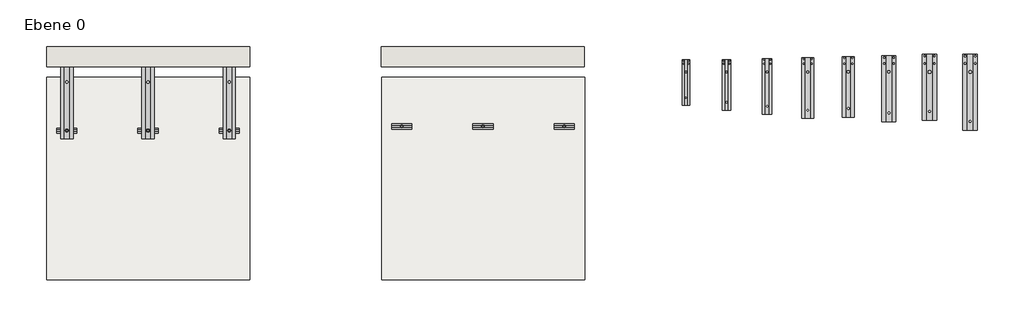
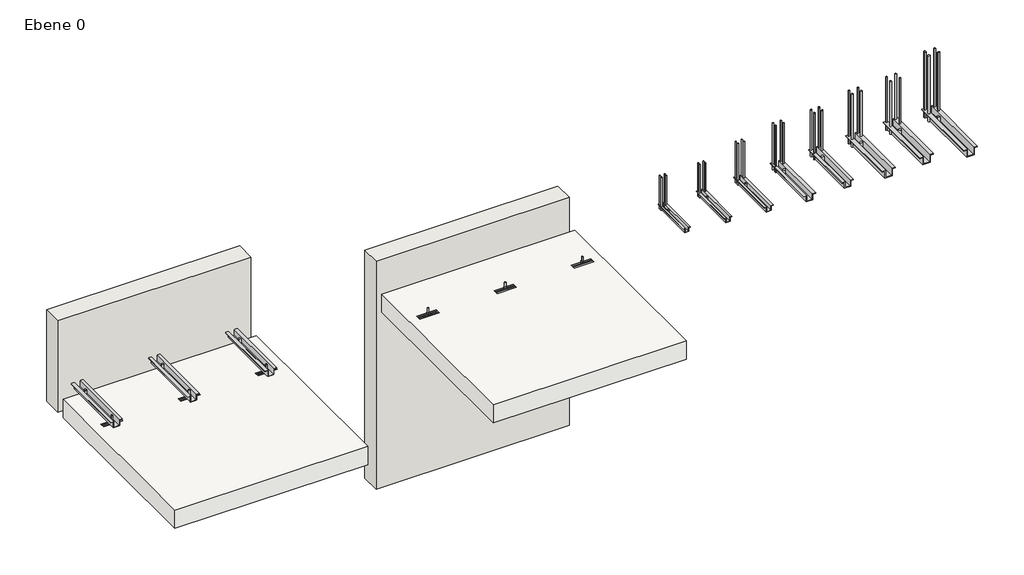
# One storey: 9 fasteners, 6 beams, 2 slabs, 2 walls.
"""IFC4 building model written with IfcOpenShell, lengths in millimetres."""

from ifc_helpers import new_model, si_unit, frame, origin, origin_with_axes, place, context, project, spatial, polyline, outline, extrude, faceted_brep, transform, mapped, element, save
from components import beam_5c117049, beam_983bb281, jba_1_80170435, jba_2_155e2620, jba_3_dd13063b, jba_4_dde57de7, jba_4_15aaa7ff, jba_5_88301e45, jba_6_cc252f45, jba_7_bb973c20, jba_8_3b5d41c7

model = new_model("IFC4")

# Units and contexts
model_context = context("Model", 3, world=origin())
ifc_project = project(units=[si_unit("LENGTHUNIT", "METRE", prefix="MILLI")], contexts=[model_context])

# Site, building, storey
site = spatial("IfcSite", under=ifc_project)
building = spatial("IfcBuilding", under=site)
storey = spatial("IfcBuildingStorey", under=building, Name="Ebene 0", Elevation=0.0)

# Beams
placement = place(None, origin())
beam_shape = beam_5c117049(model_context)
element("IfcBeam", 1, ObjectType="JORDAHL_AnchorChannels_JTA_W : JTA W 50/30 200 mm", at=placement, inside=storey, context=model_context, shape_type="MappedRepresentation", body=[
    mapped(beam_shape, transform((-1733.9223115, 5923.913959, 200.0), x_axis=(1.0, 0.0, 0.0), y_axis=(0.0, 1.0, 0.0), z_axis=(0.0, 0.0, 1.0))),
])
element("IfcBeam", 2, ObjectType="JORDAHL_AnchorChannels_JTA_W : JTA W 50/30 200 mm", at=placement, inside=storey, context=model_context, shape_type="MappedRepresentation", body=[
    mapped(beam_shape, transform((-933.9223115, 5923.913959, 200.0), x_axis=(1.0, 0.0, 0.0), y_axis=(0.0, 1.0, 0.0), z_axis=(0.0, 0.0, 1.0))),
])
element("IfcBeam", 3, ObjectType="JORDAHL_AnchorChannels_JTA_W : JTA W 50/30 200 mm", at=placement, inside=storey, context=model_context, shape_type="MappedRepresentation", body=[
    mapped(beam_shape, transform((-133.9223115, 5923.913959, 200.0), x_axis=(1.0, 0.0, 0.0), y_axis=(0.0, 1.0, 0.0), z_axis=(0.0, 0.0, 1.0))),
])
beam_2_shape = beam_983bb281(model_context)
element("IfcBeam", 4, ObjectType="JORDAHL_AnchorChannels_JTA_W : JTA W 53/34 200 mm", at=placement, inside=storey, context=model_context, shape_type="MappedRepresentation", body=[
    mapped(beam_2_shape, transform((1566.0776885, 5964.6967951, 200.0), x_axis=(1.0, 0.0, 0.0), y_axis=(0.0, 1.0, 0.0), z_axis=(0.0, 0.0, 1.0))),
])
element("IfcBeam", 5, ObjectType="JORDAHL_AnchorChannels_JTA_W : JTA W 53/34 200 mm", at=placement, inside=storey, context=model_context, shape_type="MappedRepresentation", body=[
    mapped(beam_2_shape, transform((2366.0776885, 5964.6967951, 200.0), x_axis=(1.0, 0.0, 0.0), y_axis=(0.0, 1.0, 0.0), z_axis=(0.0, 0.0, 1.0))),
])
element("IfcBeam", 6, ObjectType="JORDAHL_AnchorChannels_JTA_W : JTA W 53/34 200 mm", at=placement, inside=storey, context=model_context, shape_type="MappedRepresentation", body=[
    mapped(beam_2_shape, transform((3166.0776885, 5964.6967951, 200.0), x_axis=(1.0, 0.0, 0.0), y_axis=(0.0, 1.0, 0.0), z_axis=(0.0, 0.0, 1.0))),
])

# Fasteners
jba_1_shape = jba_1_80170435(model_context)
element("IfcFastener", 7, ObjectType="JBA JORDAHL® support corbels_1 : JBA 1", at=placement, inside=storey, context=model_context, shape_type="MappedRepresentation", body=[
    mapped(jba_1_shape, transform((4466.0776885, 6551.4862709, 0.0), x_axis=(1.0, 0.0, 0.0), y_axis=(0.0, 0.0, 1.0), z_axis=(0.0, -1.0, 0.0))),
])
jba_2_shape = jba_2_155e2620(model_context)
element("IfcFastener", 8, ObjectType="JBA JORDAHL® support corbels_1 : JBA 2", at=placement, inside=storey, context=model_context, shape_type="MappedRepresentation", body=[
    mapped(jba_2_shape, transform((4866.0776885, 6551.4862709, 0.0), x_axis=(1.0, 0.0, 0.0), y_axis=(0.0, 0.0, 1.0), z_axis=(0.0, -1.0, 0.0))),
])
jba_3_shape = jba_3_dd13063b(model_context)
element("IfcFastener", 9, ObjectType="JBA JORDAHL® support corbels_1 : JBA 3", at=placement, inside=storey, context=model_context, shape_type="MappedRepresentation", body=[
    mapped(jba_3_shape, transform((5266.0776885, 6551.4862709, 0.0), x_axis=(1.0, 0.0, 0.0), y_axis=(0.0, 0.0, 1.0), z_axis=(0.0, -1.0, 0.0))),
])
jba_4_shape = jba_4_dde57de7(model_context)
element("IfcFastener", 10, ObjectType="JBA JORDAHL® support corbels_1 : JBA 4", at=placement, inside=storey, context=model_context, shape_type="MappedRepresentation", body=[
    mapped(jba_4_shape, transform((-1633.9223115, 6551.4862709, 201.0880347), x_axis=(1.0, 0.0, 0.0), y_axis=(0.0, 0.0, 1.0), z_axis=(0.0, -1.0, 0.0))),
])
jba_4_2_shape = jba_4_15aaa7ff(model_context)
element("IfcFastener", 11, ObjectType="JBA JORDAHL® support corbels_1 : JBA 4", at=placement, inside=storey, context=model_context, shape_type="MappedRepresentation", body=[
    mapped(jba_4_2_shape, transform((5666.0776885, 6551.4862709, 0.0), x_axis=(1.0, 0.0, 0.0), y_axis=(0.0, 0.0, 1.0), z_axis=(0.0, -1.0, 0.0))),
])
jba_5_shape = jba_5_88301e45(model_context)
element("IfcFastener", 12, ObjectType="JBA JORDAHL® support corbels_1 : JBA 5", at=placement, inside=storey, context=model_context, shape_type="MappedRepresentation", body=[
    mapped(jba_5_shape, transform((6066.0776885, 6551.4862709, 0.0), x_axis=(1.0, 0.0, 0.0), y_axis=(0.0, 0.0, 1.0), z_axis=(0.0, -1.0, 0.0))),
])
jba_6_shape = jba_6_cc252f45(model_context)
element("IfcFastener", 13, ObjectType="JBA JORDAHL® support corbels_1 : JBA 6", at=placement, inside=storey, context=model_context, shape_type="MappedRepresentation", body=[
    mapped(jba_6_shape, transform((6466.0776885, 6551.4862709, 0.0), x_axis=(1.0, 0.0, 0.0), y_axis=(0.0, 0.0, 1.0), z_axis=(0.0, -1.0, 0.0))),
])
jba_7_shape = jba_7_bb973c20(model_context)
element("IfcFastener", 14, ObjectType="JBA JORDAHL® support corbels_1 : JBA 7", at=placement, inside=storey, context=model_context, shape_type="MappedRepresentation", body=[
    mapped(jba_7_shape, transform((6866.0776885, 6551.4862709, 0.0), x_axis=(1.0, 0.0, 0.0), y_axis=(0.0, 0.0, 1.0), z_axis=(0.0, -1.0, 0.0))),
])
jba_8_shape = jba_8_3b5d41c7(model_context)
element("IfcFastener", 15, ObjectType="JBA JORDAHL® support corbels_1 : JBA 8", at=placement, inside=storey, context=model_context, shape_type="MappedRepresentation", body=[
    mapped(jba_8_shape, transform((7266.0776885, 6551.4862709, 0.0), x_axis=(1.0, 0.0, 0.0), y_axis=(0.0, 0.0, 1.0), z_axis=(0.0, -1.0, 0.0))),
])

# Slabs
element("IfcSlab", 16, ObjectType="STB 20.0", at=placement, inside=storey, context=model_context, shape_type="Brep", body=[
    faceted_brep([(166.7994434, 4451.4862709, 0.0), (-1833.2005566, 4451.4862709, 0.0), (-1833.2005566, 6451.4862709, 0.0), (166.7994434, 6451.4862709, 0.0), (-1833.2005566, 4451.4862709, 200.0), (166.7994434, 4451.4862709, 200.0), (166.7994434, 6451.4862709, 200.0), (-1833.2005566, 6451.4862709, 200.0), (-1533.9223115, 5948.913959, 200.0), (-1533.9223115, 5898.913959, 200.0), (-1733.9223115, 5898.913959, 200.0), (-1733.9223115, 5948.913959, 200.0), (-733.9223115, 5948.913959, 200.0), (-733.9223115, 5898.913959, 200.0), (-933.9223115, 5898.913959, 200.0), (-933.9223115, 5948.913959, 200.0), (66.0776885, 5948.913959, 200.0), (66.0776885, 5898.913959, 200.0), (-133.9223115, 5898.913959, 200.0), (-133.9223115, 5948.913959, 200.0), (-1533.9223115, 5948.913959, 170.0), (-1533.9223115, 5898.913959, 170.0), (-1733.9223115, 5898.913959, 170.0), (-1733.9223115, 5948.913959, 170.0), (-733.9223115, 5948.913959, 170.0), (-733.9223115, 5898.913959, 170.0), (-933.9223115, 5898.913959, 170.0), (-933.9223115, 5948.913959, 170.0), (66.0776885, 5948.913959, 170.0), (66.0776885, 5898.913959, 170.0), (-133.9223115, 5898.913959, 170.0), (-133.9223115, 5948.913959, 170.0)], [[[0, 1, 2, 3]], [[4, 5, 6, 7], [8, 9, 10, 11], [12, 13, 14, 15], [16, 17, 18, 19]], [[1, 0, 5, 4]], [[2, 1, 4, 7]], [[3, 2, 7, 6]], [[0, 3, 6, 5]], [[8, 20, 21, 9]], [[10, 22, 23, 11]], [[9, 21, 22, 10]], [[21, 20, 23, 22]], [[20, 8, 11, 23]], [[12, 24, 25, 13]], [[14, 26, 27, 15]], [[13, 25, 26, 14]], [[25, 24, 27, 26]], [[24, 12, 15, 27]], [[16, 28, 29, 17]], [[18, 30, 31, 19]], [[17, 29, 30, 18]], [[29, 28, 31, 30]], [[28, 16, 19, 31]]]),
])
element("IfcSlab", 17, ObjectType="STB 20.0", at=placement, inside=storey, context=model_context, shape_type="Brep", body=[
    faceted_brep([(3466.7994434, 4451.4862709, 0.0), (1466.7994434, 4451.4862709, 0.0), (1466.7994434, 6451.4862709, 0.0), (3466.7994434, 6451.4862709, 0.0), (1466.7994434, 4451.4862709, 200.0), (3466.7994434, 4451.4862709, 200.0), (3466.7994434, 6451.4862709, 200.0), (1466.7994434, 6451.4862709, 200.0), (1766.0776885, 5991.1967951, 200.0), (1766.0776885, 5938.1967951, 200.0), (1566.0776885, 5938.1967951, 200.0), (1566.0776885, 5991.1967951, 200.0), (2566.0776885, 5991.1967951, 200.0), (2566.0776885, 5938.1967951, 200.0), (2366.0776885, 5938.1967951, 200.0), (2366.0776885, 5991.1967951, 200.0), (3366.0776885, 5991.1967951, 200.0), (3366.0776885, 5938.1967951, 200.0), (3166.0776885, 5938.1967951, 200.0), (3166.0776885, 5991.1967951, 200.0), (1766.0776885, 5991.1967951, 166.0), (1766.0776885, 5938.1967951, 166.0), (1566.0776885, 5938.1967951, 166.0), (1566.0776885, 5991.1967951, 166.0), (2566.0776885, 5991.1967951, 166.0), (2566.0776885, 5938.1967951, 166.0), (2366.0776885, 5938.1967951, 166.0), (2366.0776885, 5991.1967951, 166.0), (3366.0776885, 5991.1967951, 166.0), (3366.0776885, 5938.1967951, 166.0), (3166.0776885, 5938.1967951, 166.0), (3166.0776885, 5991.1967951, 166.0)], [[[0, 1, 2, 3]], [[4, 5, 6, 7], [8, 9, 10, 11], [12, 13, 14, 15], [16, 17, 18, 19]], [[1, 0, 5, 4]], [[2, 1, 4, 7]], [[3, 2, 7, 6]], [[0, 3, 6, 5]], [[8, 20, 21, 9]], [[10, 22, 23, 11]], [[9, 21, 22, 10]], [[21, 20, 23, 22]], [[20, 8, 11, 23]], [[12, 24, 25, 13]], [[14, 26, 27, 15]], [[13, 25, 26, 14]], [[25, 24, 27, 26]], [[24, 12, 15, 27]], [[16, 28, 29, 17]], [[18, 30, 31, 19]], [[17, 29, 30, 18]], [[29, 28, 31, 30]], [[28, 16, 19, 31]]]),
])

# Walls
element("IfcWall", 18, ObjectType="STB 20.0", at=placement, inside=storey, context=model_context, shape_type="SweptSolid", body=[
    extrude(outline(polyline([(166.0776885, 6551.4862709), (-1833.9223115, 6551.4862709), (-1833.9223115, 6751.4862709), (166.0776885, 6751.4862709), (166.0776885, 6551.4862709)])), origin_with_axes(), (0.0, 0.0, 1.0), 1000.0),
])
element("IfcWall", 19, ObjectType="STB 20.0", at=placement, inside=storey, context=model_context, shape_type="SweptSolid", body=[
    extrude(outline(polyline([(3466.0776885, 6551.4862709), (1466.0776885, 6551.4862709), (1466.0776885, 6751.4862709), (3466.0776885, 6751.4862709), (3466.0776885, 6551.4862709)])), frame((0.0, 0.0, -2000.0), z_axis=(0.0, 0.0, 1.0), x_axis=(1.0, 0.0, 0.0)), (0.0, 0.0, 1.0), 2500.0),
])

save(model, "model.ifc")
